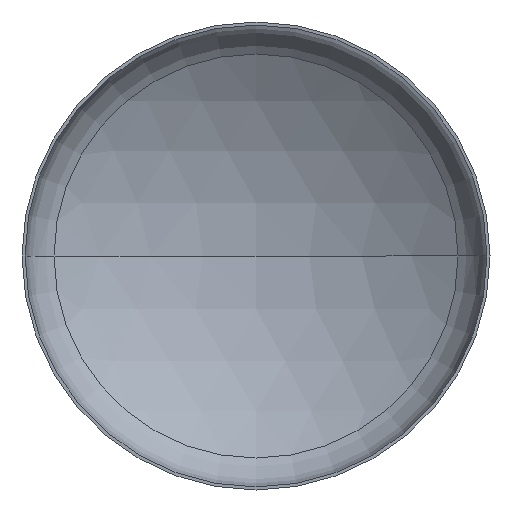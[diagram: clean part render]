
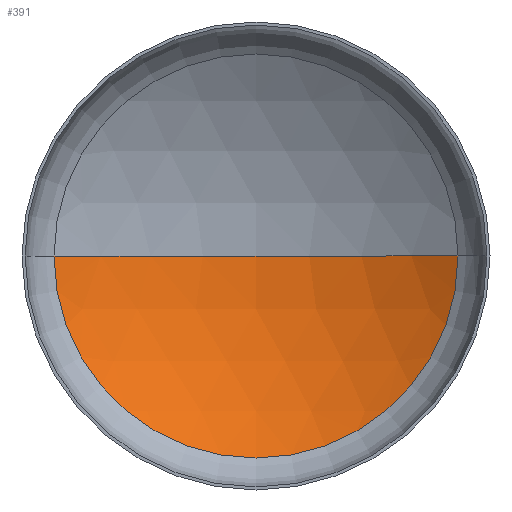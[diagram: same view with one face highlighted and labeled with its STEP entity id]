
A CAD part, front view. The second image highlights one B-rep face of the part: STEP entity #391.
In plain terms, the highlighted spherical face has radius 358.8 mm.
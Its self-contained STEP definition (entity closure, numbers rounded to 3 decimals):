
#19 = CARTESIAN_POINT ( 'NONE',  ( 0., -241.8, 0. ) ) ;
#22 = ORIENTED_EDGE ( 'NONE', *, *, #113, .T. ) ;
#29 = EDGE_CURVE ( 'NONE', #243, #114, #282, .T. ) ;
#30 = AXIS2_PLACEMENT_3D ( 'NONE', #287, #219, #85 ) ;
#49 = DIRECTION ( 'NONE',  ( 0., 0., -1. ) ) ;
#85 = DIRECTION ( 'NONE',  ( -1., 0., 0. ) ) ;
#86 = DIRECTION ( 'NONE',  ( 0., 0., 1. ) ) ;
#88 = EDGE_LOOP ( 'NONE', ( #279, #22, #400 ) ) ;
#97 = DIRECTION ( 'NONE',  ( 1., 0., 0. ) ) ;
#113 = EDGE_CURVE ( 'NONE', #244, #114, #295, .T. ) ;
#114 = VERTEX_POINT ( 'NONE', #376 ) ;
#147 = SPHERICAL_SURFACE ( 'NONE', #191, 358.8 ) ;
#152 = AXIS2_PLACEMENT_3D ( 'NONE', #159, #251, #97 ) ;
#159 = CARTESIAN_POINT ( 'NONE',  ( 0., -241.8, 0. ) ) ;
#191 = AXIS2_PLACEMENT_3D ( 'NONE', #306, #86, #256 ) ;
#219 = DIRECTION ( 'NONE',  ( 0., 1., 0. ) ) ;
#235 = FACE_OUTER_BOUND ( 'NONE', #88, .T. ) ;
#243 = VERTEX_POINT ( 'NONE', #359 ) ;
#244 = VERTEX_POINT ( 'NONE', #293 ) ;
#251 = DIRECTION ( 'NONE',  ( 0., 0., 1. ) ) ;
#256 = DIRECTION ( 'NONE',  ( -1., 0., 0. ) ) ;
#279 = ORIENTED_EDGE ( 'NONE', *, *, #396, .F. ) ;
#282 = CIRCLE ( 'NONE', #351, 358.8 ) ;
#287 = CARTESIAN_POINT ( 'NONE',  ( 0., 58.191, 0. ) ) ;
#293 = CARTESIAN_POINT ( 'NONE',  ( 196.832, 58.191, 0. ) ) ;
#295 = CIRCLE ( 'NONE', #152, 358.8 ) ;
#306 = CARTESIAN_POINT ( 'NONE',  ( 0., -241.8, 0. ) ) ;
#351 = AXIS2_PLACEMENT_3D ( 'NONE', #19, #49, #398 ) ;
#359 = CARTESIAN_POINT ( 'NONE',  ( -196.832, 58.191, 0. ) ) ;
#372 = CIRCLE ( 'NONE', #30, 196.832 ) ;
#376 = CARTESIAN_POINT ( 'NONE',  ( 0., 117., 0. ) ) ;
#391 = ADVANCED_FACE ( 'NONE', ( #235 ), #147, .F. ) ;
#396 = EDGE_CURVE ( 'NONE', #244, #243, #372, .T. ) ;
#398 = DIRECTION ( 'NONE',  ( -1., 0., 0. ) ) ;
#400 = ORIENTED_EDGE ( 'NONE', *, *, #29, .F. ) ;
